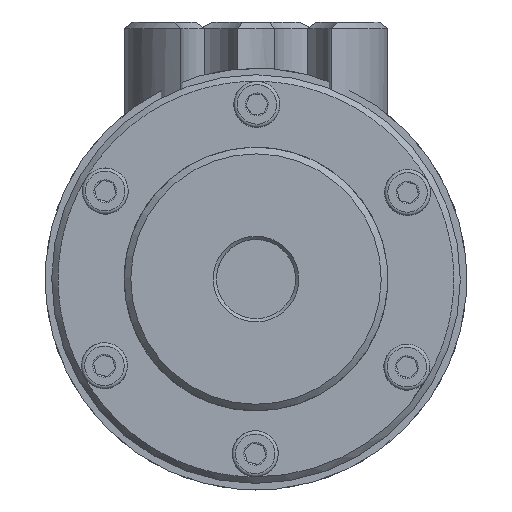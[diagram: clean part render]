
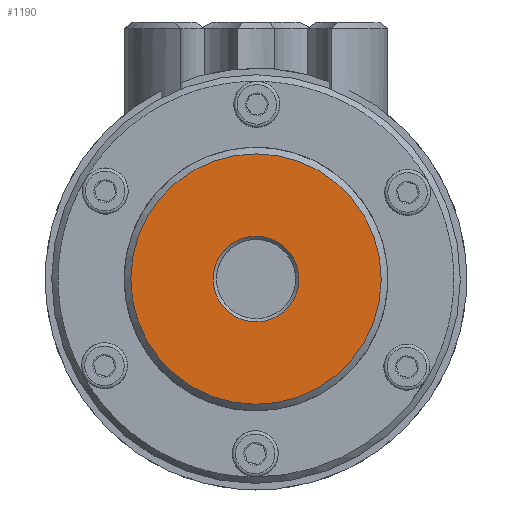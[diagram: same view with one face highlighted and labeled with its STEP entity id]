
A CAD part, left-side view. The second image highlights one B-rep face of the part: STEP entity #1190.
In plain terms, the highlighted planar face has unit normal (-1, 0, 0) as drawn and (0, 0, -1) by its records, which use the part's own axes.
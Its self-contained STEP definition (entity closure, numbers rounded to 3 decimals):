
#1190 = ADVANCED_FACE( '', ( #2170, #2171 ), #2172, .T. );
#2170 = FACE_OUTER_BOUND( '', #2992, .T. );
#2171 = FACE_BOUND( '', #2993, .T. );
#2172 = PLANE( '', #2994 );
#2992 = EDGE_LOOP( '', ( #4742 ) );
#2993 = EDGE_LOOP( '', ( #4743 ) );
#2994 = AXIS2_PLACEMENT_3D( '', #4744, #4745, #4746 );
#4742 = ORIENTED_EDGE( '', *, *, #5786, .T. );
#4743 = ORIENTED_EDGE( '', *, *, #5863, .T. );
#4744 = CARTESIAN_POINT( '', ( 0., 0., 0. ) );
#4745 = DIRECTION( '', ( 0., 0., -1. ) );
#4746 = DIRECTION( '', ( 0., -1., 0. ) );
#5786 = EDGE_CURVE( '', #6761, #6761, #6762, .T. );
#5863 = EDGE_CURVE( '', #6885, #6885, #6886, .F. );
#6761 = VERTEX_POINT( '', #8188 );
#6762 = CIRCLE( '', #8189, 19. );
#6885 = VERTEX_POINT( '', #8550 );
#6886 = CIRCLE( '', #8551, 6.5 );
#8188 = CARTESIAN_POINT( '', ( -19., 0., 0. ) );
#8189 = AXIS2_PLACEMENT_3D( '', #9578, #9579, #9580 );
#8550 = CARTESIAN_POINT( '', ( -6.5, 0., 0. ) );
#8551 = AXIS2_PLACEMENT_3D( '', #9723, #9724, #9725 );
#9578 = CARTESIAN_POINT( '', ( 0., 0., 0. ) );
#9579 = DIRECTION( '', ( 0., 0., -1. ) );
#9580 = DIRECTION( '', ( -1., 0., 0. ) );
#9723 = CARTESIAN_POINT( '', ( 0., 0., 0. ) );
#9724 = DIRECTION( '', ( 0., 0., -1. ) );
#9725 = DIRECTION( '', ( -1., 0., 0. ) );
